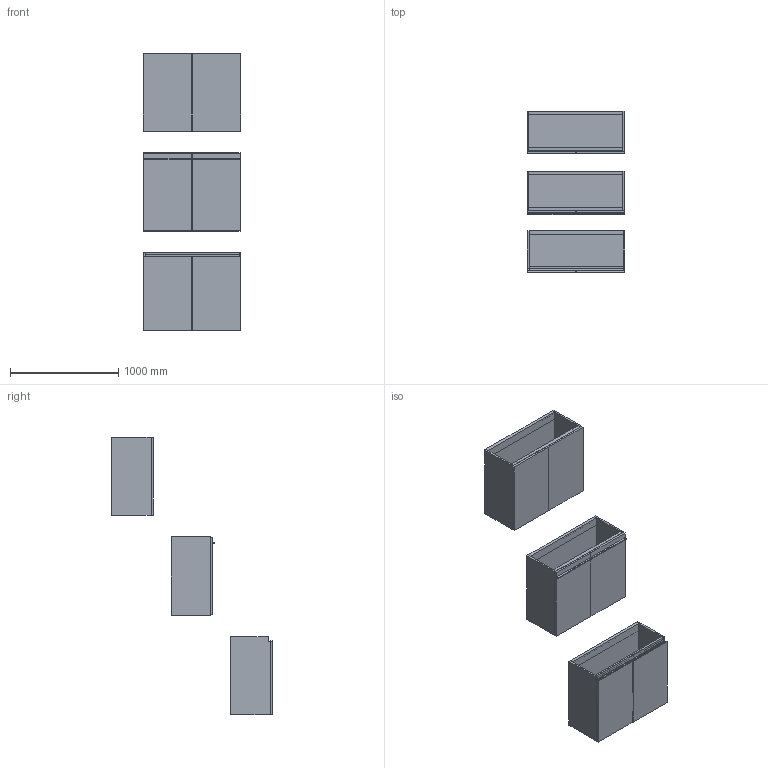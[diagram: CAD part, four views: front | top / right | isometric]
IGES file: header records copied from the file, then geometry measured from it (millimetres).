
Start section: Data from Parasolid IGES Translator 19.0.9, Copyright(c) 2006 Siemens PL M Software. All Rights Reserved.
Global section: file name: noorth-SI-H 72 D 38,8 W 90_8598.igs; native system: By Siemens PLM Incorporated; preprocessor: XPlus GENERIC/IGES 19.0.9; author: Noname; organization: Noname; date: 20200601.115252; units: metre
Bounding box: 901 x 1485.1 x 2560.01 mm (x, y, z)
Volume: 89420806.3 mm3; surface area: 14025508.8 mm2
Topology: 27 solids, 27 shells, 264 faces, 566 edges, 336 vertices
Faces by surface type: plane 180, extrusion 32, bspline 32, cylinder 20
